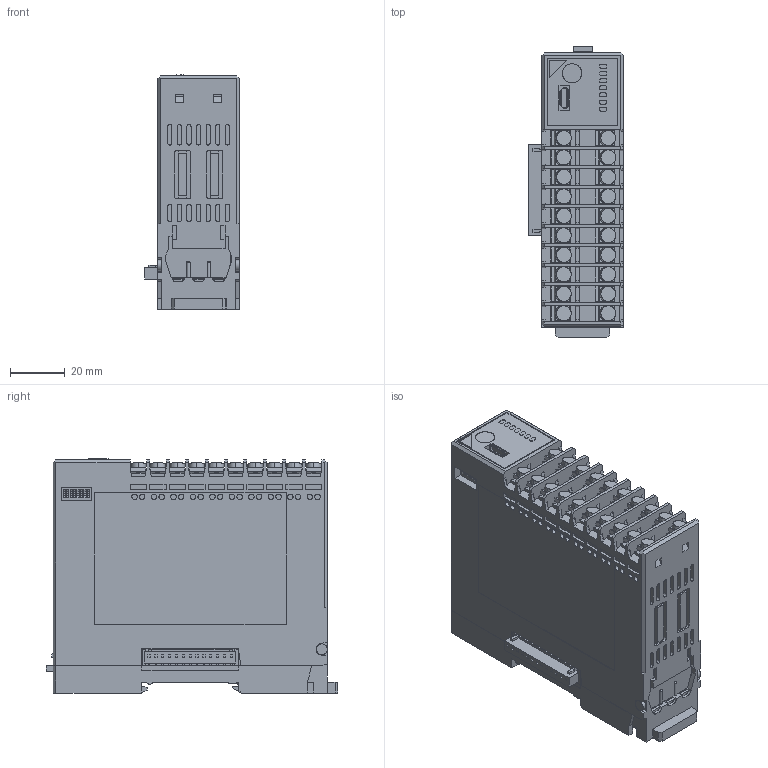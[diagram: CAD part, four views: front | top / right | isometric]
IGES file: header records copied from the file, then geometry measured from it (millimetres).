
Start section: SolidWorks IGES file using analytic representation for surfaces
Bounding box: 34.6 x 106.3 x 85.46 mm (x, y, z)
Surface area: 51081.3 mm2 (no closed solid volume)
Topology: 0 solids, 0 shells, 2028 faces, 17510 edges, 17508 vertices
Faces by surface type: bspline 1621, revolution 407
